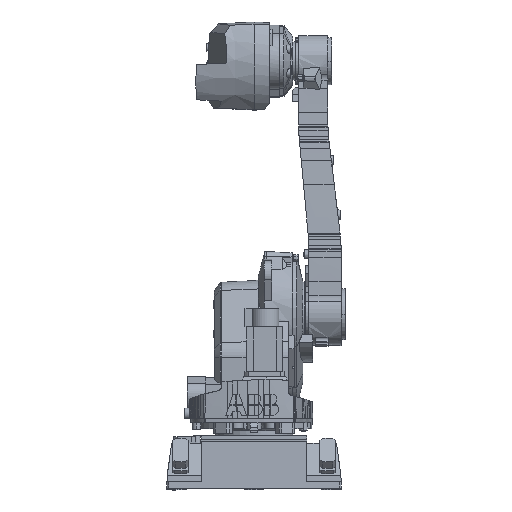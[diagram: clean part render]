
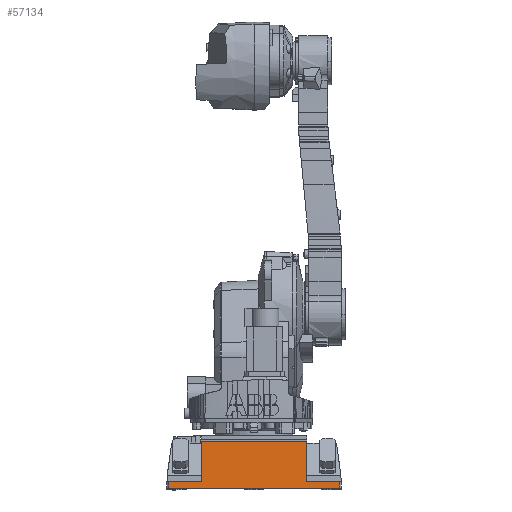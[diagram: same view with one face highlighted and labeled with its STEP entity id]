
A CAD part, left-side view. The second image highlights one B-rep face of the part: STEP entity #57134.
In plain terms, the highlighted planar face has unit normal (-0.999, 0, 0.035).
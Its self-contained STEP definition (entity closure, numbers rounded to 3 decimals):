
#1257 = ORIENTED_EDGE ( 'NONE', *, *, #113680, .T. ) ;
#5069 = ORIENTED_EDGE ( 'NONE', *, *, #142974, .T. ) ;
#7097 = CARTESIAN_POINT ( 'NONE',  ( -52.821, 426.448, 460.089 ) ) ;
#13372 = DIRECTION ( 'NONE',  ( 0.035, 0.014, 0.999 ) ) ;
#13909 = VERTEX_POINT ( 'NONE', #32767 ) ;
#13956 = VECTOR ( 'NONE', #115662, 1000. ) ;
#14991 = LINE ( 'NONE', #20286, #68412 ) ;
#16763 = ORIENTED_EDGE ( 'NONE', *, *, #106941, .T. ) ;
#18668 = EDGE_CURVE ( 'NONE', #95061, #81797, #14991, .T. ) ;
#20286 = CARTESIAN_POINT ( 'NONE',  ( -52.821, 134.448, 460.089 ) ) ;
#22882 = DIRECTION ( 'NONE',  ( 0.035, -0.014, 0.999 ) ) ;
#25079 = CARTESIAN_POINT ( 'NONE',  ( -52.821, 43.947, 460.089 ) ) ;
#27509 = PLANE ( 'NONE',  #72947 ) ;
#30181 = CARTESIAN_POINT ( 'NONE',  ( -52.821, 280.448, 460.089 ) ) ;
#31090 = LINE ( 'NONE', #109275, #155101 ) ;
#32767 = CARTESIAN_POINT ( 'NONE',  ( -52.192, 516.688, 478.089 ) ) ;
#33421 = VECTOR ( 'NONE', #13372, 1000. ) ;
#37802 = VERTEX_POINT ( 'NONE', #77524 ) ;
#39064 = LINE ( 'NONE', #25079, #33421 ) ;
#41714 = ORIENTED_EDGE ( 'NONE', *, *, #113525, .F. ) ;
#50090 = VECTOR ( 'NONE', #22882, 1000. ) ;
#53941 = VECTOR ( 'NONE', #55171, 1000. ) ;
#55171 = DIRECTION ( 'NONE',  ( -0.035, 0., -0.999 ) ) ;
#56058 = DIRECTION ( 'NONE',  ( 0.035, 0., 0.999 ) ) ;
#57134 = ADVANCED_FACE ( 'NONE', ( #136331 ), #27509, .T. ) ;
#57472 = DIRECTION ( 'NONE',  ( 0., 1., 0. ) ) ;
#59596 = DIRECTION ( 'NONE',  ( 0., 1., 0. ) ) ;
#60523 = EDGE_CURVE ( 'NONE', #107581, #139451, #69365, .T. ) ;
#68114 = EDGE_CURVE ( 'NONE', #107581, #37802, #39064, .T. ) ;
#68412 = VECTOR ( 'NONE', #56058, 1000. ) ;
#69365 = LINE ( 'NONE', #30181, #13956 ) ;
#72947 = AXIS2_PLACEMENT_3D ( 'NONE', #129046, #88946, #117856 ) ;
#73894 = ORIENTED_EDGE ( 'NONE', *, *, #68114, .T. ) ;
#76796 = VECTOR ( 'NONE', #57472, 1000. ) ;
#76807 = EDGE_CURVE ( 'NONE', #81797, #112799, #77156, .T. ) ;
#77156 = LINE ( 'NONE', #93640, #105894 ) ;
#77524 = CARTESIAN_POINT ( 'NONE',  ( -52.192, 44.207, 478.089 ) ) ;
#80996 = CARTESIAN_POINT ( 'NONE',  ( -52.192, 516.948, 478.089 ) ) ;
#81797 = VERTEX_POINT ( 'NONE', #146805 ) ;
#81876 = DIRECTION ( 'NONE',  ( 0., 1., 0. ) ) ;
#82770 = VERTEX_POINT ( 'NONE', #131909 ) ;
#85820 = ORIENTED_EDGE ( 'NONE', *, *, #60523, .F. ) ;
#86408 = LINE ( 'NONE', #7097, #53941 ) ;
#87590 = EDGE_LOOP ( 'NONE', ( #113912, #1257, #5069, #41714, #85820, #73894, #16763, #156253 ) ) ;
#88946 = DIRECTION ( 'NONE',  ( -0.999, 0., 0.035 ) ) ;
#89945 = CARTESIAN_POINT ( 'NONE',  ( -52.192, 134.448, 478.089 ) ) ;
#93640 = CARTESIAN_POINT ( 'NONE',  ( -48.281, 516.948, 590.089 ) ) ;
#95061 = VERTEX_POINT ( 'NONE', #89945 ) ;
#96050 = CARTESIAN_POINT ( 'NONE',  ( -52.821, 516.948, 460.089 ) ) ;
#97961 = CARTESIAN_POINT ( 'NONE',  ( -48.281, 426.448, 590.089 ) ) ;
#105894 = VECTOR ( 'NONE', #81876, 1000. ) ;
#106941 = EDGE_CURVE ( 'NONE', #37802, #95061, #109367, .T. ) ;
#107581 = VERTEX_POINT ( 'NONE', #143227 ) ;
#109275 = CARTESIAN_POINT ( 'NONE',  ( -52.192, 516.948, 478.089 ) ) ;
#109367 = LINE ( 'NONE', #80996, #76796 ) ;
#112799 = VERTEX_POINT ( 'NONE', #97961 ) ;
#113525 = EDGE_CURVE ( 'NONE', #139451, #13909, #115141, .T. ) ;
#113680 = EDGE_CURVE ( 'NONE', #112799, #82770, #86408, .T. ) ;
#113912 = ORIENTED_EDGE ( 'NONE', *, *, #76807, .T. ) ;
#115141 = LINE ( 'NONE', #96050, #50090 ) ;
#115662 = DIRECTION ( 'NONE',  ( 0., 1., 0. ) ) ;
#117856 = DIRECTION ( 'NONE',  ( 0.035, 0., 0.999 ) ) ;
#119211 = CARTESIAN_POINT ( 'NONE',  ( -52.821, 516.948, 460.089 ) ) ;
#129046 = CARTESIAN_POINT ( 'NONE',  ( -52.821, 516.948, 460.089 ) ) ;
#131909 = CARTESIAN_POINT ( 'NONE',  ( -52.192, 426.448, 478.089 ) ) ;
#136331 = FACE_OUTER_BOUND ( 'NONE', #87590, .T. ) ;
#139451 = VERTEX_POINT ( 'NONE', #119211 ) ;
#142974 = EDGE_CURVE ( 'NONE', #82770, #13909, #31090, .T. ) ;
#143227 = CARTESIAN_POINT ( 'NONE',  ( -52.821, 43.947, 460.089 ) ) ;
#146805 = CARTESIAN_POINT ( 'NONE',  ( -48.281, 134.448, 590.089 ) ) ;
#155101 = VECTOR ( 'NONE', #59596, 1000. ) ;
#156253 = ORIENTED_EDGE ( 'NONE', *, *, #18668, .T. ) ;
